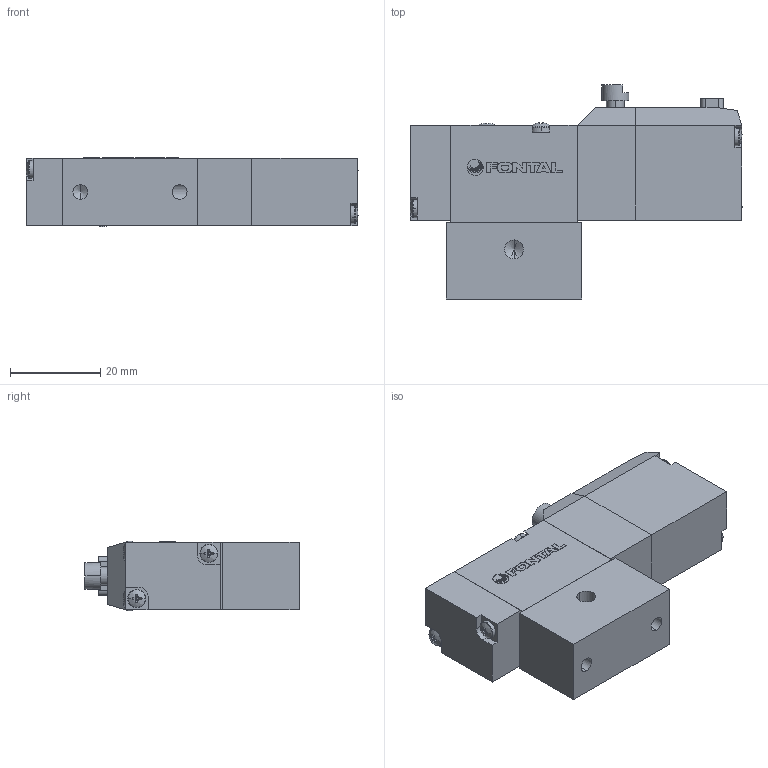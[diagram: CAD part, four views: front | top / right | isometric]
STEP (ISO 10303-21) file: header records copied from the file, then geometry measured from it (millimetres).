
FILE_DESCRIPTION (( 'STEP AP203' ), '1' );
FILE_NAME ('PCL245#-M5-#-L-#.STEP', '2016-02-04T03:49:12', ( 'Sam Lin' ), ( '' ), 'SwSTEP 2.0', 'SolidWorks 2013', '' );
FILE_SCHEMA (( 'CONFIG_CONTROL_DESIGN' ));
Length unit declared in the file: metre
Products named in the file (10): PC-MARK; PC5-4; ISO 7045 - M2.5 x 25; 手動鈕; PC5-1; PCL245#-M5-#-L-#; PC5-2; ISO 7045 - M2 x 10; PC5-3; PC5-5
Assembly tree (13 placements, depth 2):
  PCL245#-M5-#-L-#
    PC5-1
    PC5-2
    ISO 7045 - M2 x 10  x4
    PC5-3
    PC5-5
    PC-MARK
    PC5-4
    ISO 7045 - M2.5 x 25  x2
    手動鈕
Bounding box: 73.64 x 47.5 x 15.4 mm (x, y, z)
Volume: 31306.3 mm3; surface area: 13863.5 mm2
Topology: 19 solids, 19 shells, 488 faces, 1199 edges, 740 vertices
Faces by surface type: plane 266, cylinder 99, cone 79, bspline 44
Entity records: 10911 total; most frequent: CARTESIAN_POINT 2280, ORIENTED_EDGE 1550, DIRECTION 1533, EDGE_CURVE 775, AXIS2_PLACEMENT_3D 533, VERTEX_POINT 500, VECTOR 467, LINE 467
